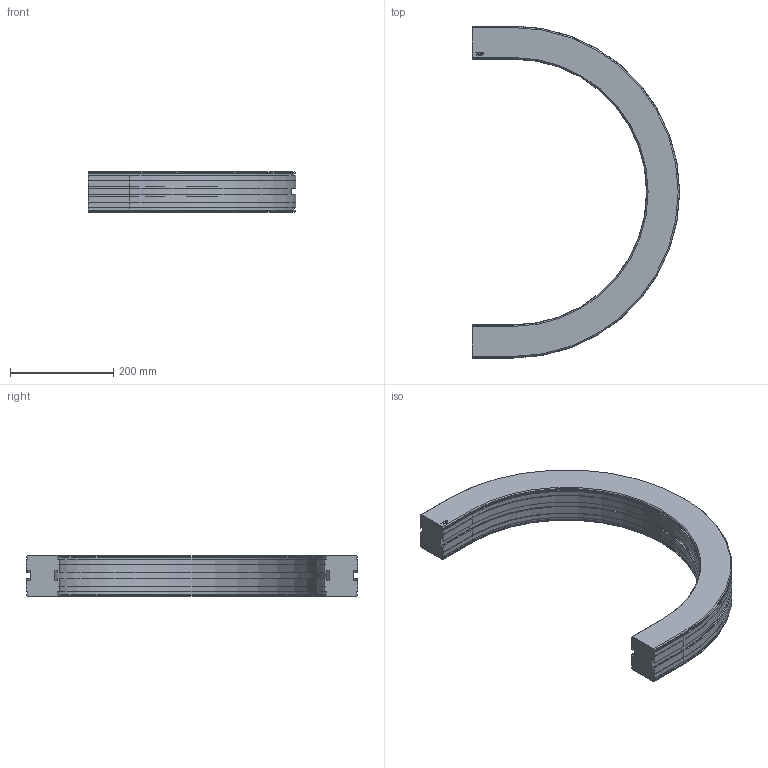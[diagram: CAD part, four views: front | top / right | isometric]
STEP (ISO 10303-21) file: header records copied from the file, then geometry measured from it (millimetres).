
FILE_DESCRIPTION((''),'2;1');
FILE_NAME('C:\Vault Klient\Projekt\Koncept konstruktion\Serie 620 Balk\620-5220.stp','2009-11-26T15:03:26',('Mathias'),(''),'Autodesk Inventor 2010','Autodesk Inventor 2010','');
FILE_SCHEMA(('AUTOMOTIVE_DESIGN { 1 0 10303 214 1 1 1 1 }'));
Length unit declared in the file: millimetre
Products named in the file (1): 620-5220
Bounding box: 401 x 642 x 78 mm (x, y, z)
Volume: 4966291.3 mm3; surface area: 394307.7 mm2
Topology: 1 solids, 1 shells, 169 faces, 446 edges, 284 vertices
Faces by surface type: plane 109, cylinder 30, bspline 14, cone 12, torus 4
Entity records: 5295 total; most frequent: CARTESIAN_POINT 1094, ORIENTED_EDGE 892, DIRECTION 802, EDGE_CURVE 446, VECTOR 346, LINE 346, VERTEX_POINT 284, AXIS2_PLACEMENT_3D 228
